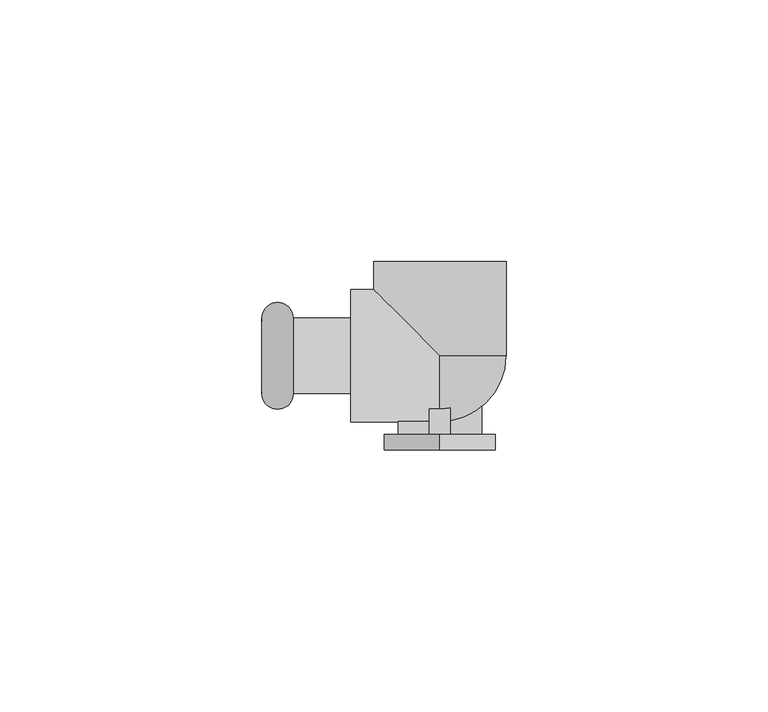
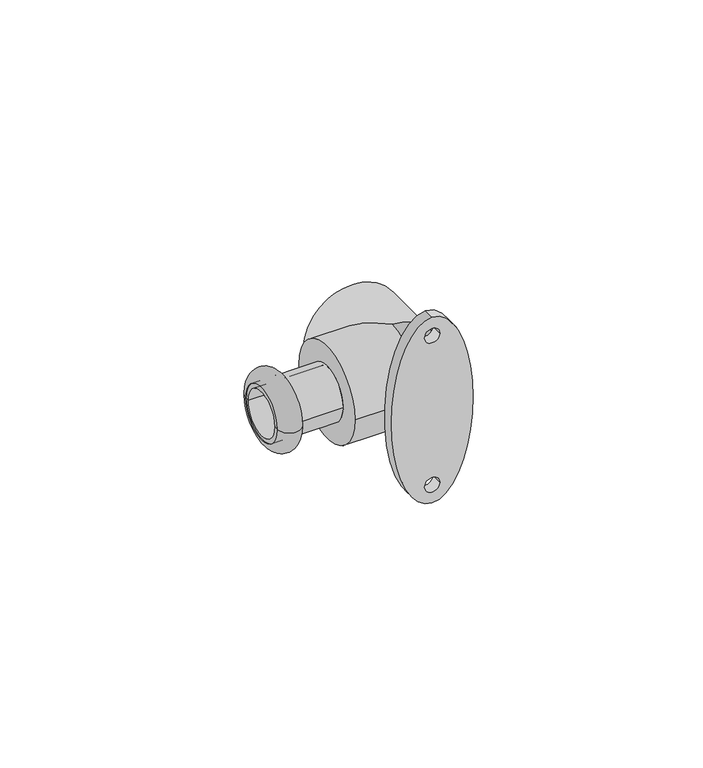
"""IFC4 building model written with IfcOpenShell, lengths in millimetres: pipe fitting geometry."""

import ifcopenshell
import ifcopenshell.guid

model = None  # the IFC model being written
_history = None  # IfcOwnerHistory: only IFC2X3 demands one
_inside = {}  # id of a spatial element -> (the spatial element, [elements in it])
_under = {}  # id of a project, library or spatial element -> (it, [spatial elements below it])
_declared = {}  # id of a project -> (the project, [libraries it declares])
_typed = {}  # id of a type object -> (the type object, [elements of that type])
_made_of = {}  # id of a material, layer set ... -> (it, [elements and type objects made of it])


def new_model(schema):
    """Start an empty IFC model of exactly this schema.

    Asked for "IFC4X3", IfcOpenShell would pick the latest addendum, in which some entities
    have other attributes; the version numbers below select the first issue.
    IFC2X3 requires an IfcOwnerHistory on every rooted entity: one is made here for all.
    """
    global model, _history
    if schema == "IFC4X3":
        model = ifcopenshell.file(schema_version=(4, 3, 0, 0))
    else:
        model = ifcopenshell.file(schema=schema)
    _inside.clear()
    _under.clear()
    _declared.clear()
    _typed.clear()
    _made_of.clear()
    _history = None
    if model.schema == "IFC2X3":
        org = make("IfcOrganization", Name="unknown")
        user = make(
            "IfcPersonAndOrganization",
            ThePerson=make("IfcPerson", FamilyName="unknown"),
            TheOrganization=org,
        )
        app = make(
            "IfcApplication",
            ApplicationDeveloper=org,
            Version="unknown",
            ApplicationFullName="unknown",
            ApplicationIdentifier="unknown",
        )
        _history = make(
            "IfcOwnerHistory",
            OwningUser=user,
            OwningApplication=app,
            ChangeAction="ADDED",
            CreationDate=0,
        )
    return model


def make(cls, **values):
    """One entity of the class cls with the attributes given. An attribute that is None is left unset."""
    return model.create_entity(
        cls, **{name: value for name, value in values.items() if value is not None}
    )


def rooted(cls, **values):
    """An entity with a GlobalId (a new one), such as an element, a storey or a relation."""
    return make(cls, GlobalId=ifcopenshell.guid.new(), OwnerHistory=_history, **values)


def si_unit(unit_type, name, prefix=None):
    """IfcSIUnit, for example si_unit("LENGTHUNIT", "METRE", prefix="MILLI")."""
    return make("IfcSIUnit", UnitType=unit_type, Prefix=prefix, Name=name)


def assignment(units):
    """IfcUnitAssignment: the units of a project."""
    return None if units is None else make("IfcUnitAssignment", Units=units)


def point(xyz):
    """IfcCartesianPoint."""
    return None if xyz is None else make("IfcCartesianPoint", Coordinates=xyz)


def direction(xyz):
    """IfcDirection."""
    return None if xyz is None else make("IfcDirection", DirectionRatios=xyz)


def frame(location, z_axis=None, x_axis=None):
    """IfcAxis2Placement3D, a coordinate frame: its origin and axes. An axis left out is left unset."""
    return make(
        "IfcAxis2Placement3D",
        Location=point(location),
        Axis=direction(z_axis),
        RefDirection=direction(x_axis),
    )


def origin():
    """The frame at (0, 0, 0) with its axes left unset."""
    return frame((0.0, 0.0, 0.0))


def place(relative_to, where):
    """IfcLocalPlacement: puts the frame where relative to a parent placement (None: the world)."""
    return make(
        "IfcLocalPlacement", PlacementRelTo=relative_to, RelativePlacement=where
    )


def context(
    kind, dimensions, precision=None, world=None, true_north=None, identifier=None
):
    """IfcGeometricRepresentationContext, for example the 3D "Model" context."""
    return make(
        "IfcGeometricRepresentationContext",
        ContextIdentifier=identifier,
        ContextType=kind,
        CoordinateSpaceDimension=dimensions,
        Precision=precision,
        WorldCoordinateSystem=world,
        TrueNorth=true_north,
    )


def project(units=None, contexts=None):
    """IfcProject with its units and contexts."""
    return rooted(
        "IfcProject",
        Name="project",
        RepresentationContexts=contexts,
        UnitsInContext=assignment(units),
    )


def spatial(cls, under=None, at=None, **own):
    """A site, building, storey or space (cls), placed at a placement, below another one or the project."""
    s = rooted(cls, ObjectPlacement=at, **own)
    if under is not None:
        _under.setdefault(under.id(), (under, []))[1].append(s)
    return s


def polyline(points):
    """IfcPolyline through the points."""
    return make("IfcPolyline", Points=[point(p) for p in points])


def circle_curve(where, radius):
    """IfcCircle in the frame where."""
    return make("IfcCircle", Position=where, Radius=radius)


def ellipse_curve(where, semi_axis1, semi_axis2):
    """IfcEllipse in the frame where."""
    return make(
        "IfcEllipse", Position=where, SemiAxis1=semi_axis1, SemiAxis2=semi_axis2
    )


def trimmed(basis, trim1, trim2, sense, master):
    """IfcTrimmedCurve: the piece of a basis curve between two trims."""
    return make(
        "IfcTrimmedCurve",
        BasisCurve=basis,
        Trim1=trim1,
        Trim2=trim2,
        SenseAgreement=sense,
        MasterRepresentation=master,
    )


def outline(outer, holes=None, kind="AREA"):
    """IfcArbitraryClosedProfileDef: a profile drawn as a closed curve; with holes, ...WithVoids."""
    if holes is None:
        return make("IfcArbitraryClosedProfileDef", ProfileType=kind, OuterCurve=outer)
    return make(
        "IfcArbitraryProfileDefWithVoids",
        ProfileType=kind,
        OuterCurve=outer,
        InnerCurves=holes,
    )


def extrude(swept, where, along, depth):
    """IfcExtrudedAreaSolid: the profile swept, set in the frame where, extruded along a direction by depth."""
    return make(
        "IfcExtrudedAreaSolid",
        SweptArea=swept,
        Position=where,
        ExtrudedDirection=direction(along),
        Depth=depth,
    )


def shape(context_of_items, identifier, shape_type, items):
    """IfcShapeRepresentation: the items that make up one representation, for example the "Body"."""
    return make(
        "IfcShapeRepresentation",
        ContextOfItems=context_of_items,
        RepresentationIdentifier=identifier,
        RepresentationType=shape_type,
        Items=items,
    )


def source(mapping_origin, context_of_items, identifier, shape_type, items):
    """IfcRepresentationMap: a shape defined once, which mapped items show again and again."""
    return make(
        "IfcRepresentationMap",
        MappingOrigin=mapping_origin,
        MappedRepresentation=shape(context_of_items, identifier, shape_type, items),
    )


def transform(
    local_origin,
    x_axis=None,
    y_axis=None,
    z_axis=None,
    scale=None,
    scale2=None,
    scale3=None,
    uniform=True,
):
    """IfcCartesianTransformationOperator3D, or its non-uniform kind. x_axis, y_axis, z_axis: its Axis1, 2, 3."""
    if uniform:
        return make(
            "IfcCartesianTransformationOperator3D",
            Axis1=direction(x_axis),
            Axis2=direction(y_axis),
            LocalOrigin=point(local_origin),
            Scale=scale,
            Axis3=direction(z_axis),
        )
    return make(
        "IfcCartesianTransformationOperator3DnonUniform",
        Axis1=direction(x_axis),
        Axis2=direction(y_axis),
        LocalOrigin=point(local_origin),
        Scale=scale,
        Axis3=direction(z_axis),
        Scale2=scale2,
        Scale3=scale3,
    )


def mapped(mapping_source, mapping_target):
    """IfcMappedItem: shows the shape of a source again, moved by a transform."""
    return make(
        "IfcMappedItem", MappingSource=mapping_source, MappingTarget=mapping_target
    )


def made_of(thing, what):
    """Note that an element or type object is made of a material, layer set ...; save() writes the relation."""
    if what is not None:
        _made_of.setdefault(what.id(), (what, []))[1].append(thing)
    return thing


def element(
    cls,
    number,
    at=None,
    inside=None,
    cuts=None,
    type_object=None,
    material=None,
    context=None,
    identifier="Body",
    shape_type=None,
    held_by="IfcProductDefinitionShape",
    body=None,
    shapes=None,
    **own,
):
    """One element of the class cls, such as IfcWall. Its Tag is "e" and its number.

    at: its placement. inside: the storey or other place that contains it. cuts: it is an
    opening in that element (IfcRelVoidsElement). A single representation is given by context,
    identifier, shape_type and body (its items); several are given by shapes. held_by: the class
    of the entity that holds the representations. save() writes the other relations.
    """
    e = rooted(cls, Tag="e%d" % number, ObjectPlacement=at, **own)
    if body is not None:
        shapes = [shape(context, identifier, shape_type, body)]
    if shapes is not None:
        e.Representation = make(held_by, Representations=shapes)
    if inside is not None:
        _inside.setdefault(inside.id(), (inside, []))[1].append(e)
    if cuts is not None:
        rooted(
            "IfcRelVoidsElement", RelatingBuildingElement=cuts, RelatedOpeningElement=e
        )
    if type_object is not None:
        _typed.setdefault(type_object.id(), (type_object, []))[1].append(e)
    return made_of(e, material)


def aggregate(whole, parts):
    """IfcRelAggregates: a whole, such as a stair, and the parts it consists of."""
    return rooted("IfcRelAggregates", RelatingObject=whole, RelatedObjects=parts)


def save(model, path):
    """Write the relations noted so far, then the file.

    IfcRelAggregates (storeys below a building ...), IfcRelContainedInSpatialStructure (elements
    in a storey), IfcRelDefinesByType, IfcRelAssociatesMaterial and IfcRelDeclares: one each for
    every whole, place, type object, material and project.
    """
    for whole, parts in _under.values():
        aggregate(whole, parts)
    for where, things in _inside.values():
        rooted(
            "IfcRelContainedInSpatialStructure",
            RelatedElements=things,
            RelatingStructure=where,
        )
    for kind, things in _typed.values():
        rooted("IfcRelDefinesByType", RelatedObjects=things, RelatingType=kind)
    for what, things in _made_of.values():
        rooted("IfcRelAssociatesMaterial", RelatedObjects=things, RelatingMaterial=what)
    for by, libraries in _declared.values():
        rooted("IfcRelDeclares", RelatingContext=by, RelatedDefinitions=libraries)
    model.write(path)


def plane_surface(at):
    """IfcPlane: the flat surface through the origin of the frame at, square to its z axis."""
    return make("IfcPlane", Position=at)


def cylinder_surface(at, radius):
    """IfcCylindricalSurface: all points at the distance radius from the z axis of the frame at."""
    return make("IfcCylindricalSurface", Position=at, Radius=radius)


def revolved_surface(curve, axis_point, axis_direction):
    """IfcSurfaceOfRevolution: the curve turned about the line through axis_point along axis_direction."""
    return make(
        "IfcSurfaceOfRevolution",
        SweptCurve=make("IfcArbitraryOpenProfileDef", ProfileType="CURVE", Curve=curve),
        AxisPosition=make("IfcAxis1Placement", Location=point(axis_point), Axis=direction(axis_direction)),
    )


def extruded_surface(curve, direction_of_extrusion, depth):
    """IfcSurfaceOfLinearExtrusion: the curve pushed along a direction by depth."""
    return make(
        "IfcSurfaceOfLinearExtrusion",
        SweptCurve=make("IfcArbitraryOpenProfileDef", ProfileType="CURVE", Curve=curve),
        ExtrudedDirection=direction(direction_of_extrusion),
        Depth=depth,
    )


def advanced_brep(points, edges, surfaces, faces):
    """IfcAdvancedBrep: a solid bounded by faces that lie on surfaces and meet in shared edges.

    An edge is (start, end): straight between two places in points (the first is 0);
    or (start, end, curve); or (start, end, curve, False) where it runs against its curve.
    A face is (place in surfaces, loops), or (place, loops, False) where it looks against
    its surface's normal. A loop lists edges by number (the first is 1), with a minus sign
    where the edge is run from its end to its start. The first loop is the outer one.
    """
    corners = [point(p) for p in points]
    vertices = [make("IfcVertexPoint", VertexGeometry=c) for c in corners]
    made = []
    for start, end, *more in edges:
        made.append(
            make(
                "IfcEdgeCurve",
                EdgeStart=vertices[start],
                EdgeEnd=vertices[end],
                EdgeGeometry=more[0] if more else make("IfcPolyline", Points=[corners[start], corners[end]]),
                SameSense=more[1] if len(more) > 1 else True,
            )
        )
    hull = []
    for where, loops, *sense in faces:
        bounds = []
        for j, loop in enumerate(loops):
            ring = [make("IfcOrientedEdge", EdgeElement=made[abs(k) - 1], Orientation=k > 0) for k in loop]
            bounds.append(
                make(
                    "IfcFaceOuterBound" if j == 0 else "IfcFaceBound",
                    Bound=make("IfcEdgeLoop", EdgeList=ring),
                    Orientation=True,
                )
            )
        hull.append(make("IfcAdvancedFace", Bounds=bounds, FaceSurface=surfaces[where], SameSense=sense[0] if sense else True))
    return make("IfcAdvancedBrep", Outer=make("IfcClosedShell", CfsFaces=hull))


def pipe_fitting_cbf9872b(model_context):
    return source(origin(), model_context, "Body", "SolidModel", [
        advanced_brep(
        [(-34.0, 7.2, 0.0), (-34.0, -7.2, 0.0), (-27.9987073, -7.2, 0.0), (-27.9987073, 7.2, 0.0)],
        [
            (0, 1, circle_curve(frame((-34.0, 0.0, 0.0), z_axis=(-1.0, 0.0, 0.0), x_axis=(0.0, -1.0000000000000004, 0.0)), 7.2)),
            (1, 2),
            (2, 3, circle_curve(frame((-27.9987073, 0.0, 0.0), z_axis=(1.0, 0.0, 0.0), x_axis=(0.0, -1.0000000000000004, 0.0)), 7.2)),
            (3, 0),
            (1, 0, circle_curve(frame((-34.0, 0.0, 0.0), z_axis=(-1.0, 0.0, 0.0), x_axis=(0.0, -1.0000000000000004, 0.0)), 7.2)),
            (3, 2, circle_curve(frame((-27.9987073, 0.0, 0.0), z_axis=(1.0, 0.0, 0.0), x_axis=(0.0, -1.0000000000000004, 0.0)), 7.2)),
            (2, 1, circle_curve(frame((-30.9993536, -7.2, 0.0), z_axis=(0.0, 0.0, -1.0000000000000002), x_axis=(-1.0000000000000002, 0.0, 0.0)), 3.0006464)),
            (0, 3, circle_curve(frame((-30.9993536, 7.2, 0.0), z_axis=(0.0, 0.0, -1.0000000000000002), x_axis=(-1.0000000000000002, 0.0, 0.0)), 3.0006464)),
        ],
        [
            revolved_surface(polyline([(-27.998707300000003, -7.200000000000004, 0.0), (-34.00000000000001, -7.200000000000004, 0.0)]), (-17.0, 0.0, 0.0), (1.0000000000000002, 0.0, 0.0)),
            revolved_surface(trimmed(ellipse_curve(frame((-30.9993536, -7.2, 0.0), z_axis=(0.0, 0.0, 1.0000000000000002), x_axis=(-1.0000000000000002, 0.0, 0.0)), 3.0006464, 3.0006464), [point((-34.0, -7.2, 0.0))], [point((-27.9987073, -7.2, 0.0))], True, "CARTESIAN"), (-17.0, 0.0, 0.0), (1.0000000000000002, 0.0, 0.0)),
        ],
        [
            (0, [[1, 2, 3, 4]]),
            (0, [[5, -4, 6, -2]]),
            (1, [[-3, 7, -1, 8]]),
            (1, [[-6, -8, -5, -7]]),
        ],
    ),
        advanced_brep(
        [(-34.0, 6.0, 0.0), (-34.0, -6.0, 0.0), (-16.0, -6.0, 0.0), (-16.0, 6.0, 0.0), (-34.0, 7.2, 0.0), (-34.0, -7.2, 0.0), (-17.0, 7.2, 0.0), (-17.0, -7.2, 0.0)],
        [
            (0, 1, circle_curve(frame((-34.0, 0.0, 0.0), z_axis=(-1.0, 0.0, 0.0), x_axis=(0.0, -1.0000000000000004, 0.0)), 6.0)),
            (1, 2),
            (2, 3, circle_curve(frame((-16.0, 0.0, 0.0), z_axis=(1.0, 0.0, 0.0), x_axis=(0.0, -1.0000000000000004, 0.0)), 6.0)),
            (3, 0),
            (1, 0, circle_curve(frame((-34.0, 0.0, 0.0), z_axis=(-1.0, 0.0, 0.0), x_axis=(0.0, -1.0000000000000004, 0.0)), 6.0)),
            (3, 2, circle_curve(frame((-16.0, 0.0, 0.0), z_axis=(1.0, 0.0, 0.0), x_axis=(0.0, -1.0000000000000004, 0.0)), 6.0)),
            (4, 5, circle_curve(frame((-34.0, 0.0, 0.0), z_axis=(-1.0, 0.0, 0.0), x_axis=(0.0, -1.0000000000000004, 0.0)), 7.2)),
            (5, 1),
            (0, 4),
            (5, 4, circle_curve(frame((-34.0, 0.0, 0.0), z_axis=(-1.0, 0.0, 0.0), x_axis=(0.0, -1.0000000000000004, 0.0)), 7.2)),
            (6, 7, circle_curve(frame((-17.0, 0.0, 0.0), z_axis=(-1.0, 0.0, 0.0), x_axis=(0.0, -1.0000000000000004, 0.0)), 7.2)),
            (7, 5),
            (4, 6),
            (7, 6, circle_curve(frame((-17.0, 0.0, 0.0), z_axis=(-1.0, 0.0, 0.0), x_axis=(0.0, -1.0000000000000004, 0.0)), 7.2)),
            (2, 7),
            (6, 3),
        ],
        [
            revolved_surface(polyline([(-16.0, -6.000000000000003, 0.0), (-34.00000000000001, -6.000000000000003, 0.0)]), (-17.0, 0.0, 0.0), (1.0000000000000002, 0.0, 0.0)),
            plane_surface(frame((-34.0, 0.0, 0.0), z_axis=(-1.0, 0.0, 0.0), x_axis=(0.0, -1.0, 0.0))),
            cylinder_surface(frame((-17.0, 0.0, 0.0), z_axis=(1.0000000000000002, 0.0, 0.0), x_axis=(0.0, -1.0000000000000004, 0.0)), 7.2),
            revolved_surface(polyline([(-17.0, -7.2, 0.0), (-16.0, -6.0, 0.0)]), (-17.0, 0.0, 0.0), (1.0000000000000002, 0.0, 0.0)),
        ],
        [
            (0, [[1, 2, 3, 4]]),
            (0, [[5, -4, 6, -2]]),
            (1, [[7, 8, -1, 9]]),
            (1, [[10, -9, -5, -8]]),
            (2, [[11, 12, -7, 13]]),
            (2, [[14, -13, -10, -12]]),
            (3, [[-3, 15, -11, 16]]),
            (3, [[-6, -16, -14, -15]]),
        ],
    ),
        advanced_brep(
        [(0.0, 0.0, 12.65), (0.0, -12.65, 0.0), (0.0, 0.0, -12.65), (12.65, 0.0, 0.0), (-17.0, 12.65, 0.0), (-17.0, -12.65, 0.0), (-12.65, 12.65, 0.0), (12.65, 18.0, 0.0), (-12.65, 18.0, 0.0), (-8.65, 18.0, 0.0), (8.65, 18.0, 0.0), (8.65, 3.35, 0.0), (-8.65, 3.35, 0.0)],
        [
            (0, 1, circle_curve(frame((0.0, 0.0, 0.0), z_axis=(1.0, 0.0, 0.0), x_axis=(0.0, 1.0, 0.0)), 12.65)),
            (1, 2, circle_curve(frame((0.0, 0.0, 0.0), z_axis=(1.0, 0.0, 0.0), x_axis=(0.0, 1.0, 0.0)), 12.65)),
            (2, 3, circle_curve(frame((0.0, 0.0, 0.0), z_axis=(0.0, -1.0, 0.0), x_axis=(0.0, 0.0, 1.0)), 12.65)),
            (3, 0, circle_curve(frame((0.0, 0.0, 0.0), z_axis=(0.0, -1.0, 0.0), x_axis=(0.0, 0.0, 1.0)), 12.65)),
            (4, 5, circle_curve(frame((-17.0, 0.0, 0.0), z_axis=(-1.0, 0.0, 0.0), x_axis=(0.0, -1.0, 0.0)), 12.65)),
            (5, 4, circle_curve(frame((-17.0, 0.0, 0.0), z_axis=(-1.0, 0.0, 0.0), x_axis=(0.0, -1.0, 0.0)), 12.65)),
            (5, 1),
            (0, 6, ellipse_curve(frame((0.0, 0.0, 0.0), z_axis=(-0.7071067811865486, -0.7071067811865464, 0.0), x_axis=(0.7071067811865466, -0.7071067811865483, 0.0)), 17.8898016, 12.65)),
            (6, 4),
            (6, 2, ellipse_curve(frame((0.0, 0.0, 0.0), z_axis=(-0.7071067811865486, -0.7071067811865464, 0.0), x_axis=(0.7071067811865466, -0.7071067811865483, 0.0)), 17.8898016, 12.65)),
            (7, 8, circle_curve(frame((0.0, 18.0, 0.0), z_axis=(0.0, 1.0, 0.0), x_axis=(-1.0, 0.0, 0.0)), 12.65)),
            (8, 7, circle_curve(frame((0.0, 18.0, 0.0), z_axis=(0.0, 1.0, 0.0), x_axis=(-1.0, 0.0, 0.0)), 12.65)),
            (9, 10, circle_curve(frame((0.0, 18.0, 0.0), z_axis=(0.0, -1.0, 0.0), x_axis=(-1.0, 0.0, 0.0)), 8.65)),
            (10, 9, circle_curve(frame((0.0, 18.0, 0.0), z_axis=(0.0, -1.0, 0.0), x_axis=(-1.0, 0.0, 0.0)), 8.65)),
            (8, 6),
            (3, 7),
            (11, 12, circle_curve(frame((0.0, 3.35, 0.0), z_axis=(0.0, 1.0, 0.0), x_axis=(-1.0, 0.0, 0.0)), 8.65)),
            (12, 11, circle_curve(frame((0.0, 3.35, 0.0), z_axis=(0.0, 1.0, 0.0), x_axis=(-1.0, 0.0, 0.0)), 8.65)),
            (11, 10),
            (9, 12),
        ],
        [
            revolved_surface(trimmed(ellipse_curve(frame((0.0, 0.0, 0.0), z_axis=(1.0, 0.0, 0.0), x_axis=(0.0, 1.0, 0.0)), 12.65, 12.65), [point((0.0, 0.0, 12.65))], [point((0.0, -12.65, 0.0))], True, "CARTESIAN"), (0.0, 0.0, 0.0), (0.0, -1.0, 0.0)),
            plane_surface(frame((-17.0, 0.0, 0.0), z_axis=(-1.0, 0.0, 0.0), x_axis=(0.0, 0.0, 1.0))),
            cylinder_surface(frame((0.0, 0.0, 0.0), z_axis=(1.0, 0.0, 0.0), x_axis=(0.0, -1.0, 0.0)), 12.65),
            plane_surface(frame((0.0, 18.0, 0.0), z_axis=(0.0, 1.0, 0.0), x_axis=(0.0, 0.0, 1.0))),
            cylinder_surface(frame((0.0, 0.0, 0.0), z_axis=(0.0, -1.0, 0.0), x_axis=(-1.0, 0.0, 0.0)), 12.65),
            plane_surface(frame((-8.65, 3.35, 0.0), z_axis=(0.0, 1.0, 0.0), x_axis=(0.0, 0.0, -1.0))),
            revolved_surface(polyline([(-8.65, 18.0, 0.0), (-8.65, 3.35, 0.0)]), (0.0, 3.35, 0.0), (0.0, 1.0, 0.0)),
        ],
        [
            (0, [[1, 2, 3, 4]]),
            (1, [[5, 6]]),
            (2, [[-6, 7, -1, 8, 9]]),
            (2, [[-5, -9, 10, -2, -7]]),
            (3, [[11, 12], [13, 14]]),
            (4, [[-12, 15, -8, -4, 16]]),
            (4, [[-11, -16, -3, -10, -15]]),
            (5, [[17, 18]]),
            (6, [[-17, 19, -13, 20]]),
            (6, [[-18, -20, -14, -19]]),
        ],
    ),
        extrude(outline(polyline([(8.0, 2.0), (8.0, -2.0), (2.0, -2.0), (2.0, -8.0), (-2.0, -8.0), (-2.0, -2.0), (-8.0, -2.0), (-8.0, 2.0), (-2.0, 2.0), (-2.0, 8.0), (2.0, 8.0), (2.0, 2.0), (8.0, 2.0)])), frame((0.0, -15.0, 0.0), z_axis=(0.0, 1.0, 0.0), x_axis=(0.0, 0.0, 1.0)), (0.0, 0.0, 1.0), 15.0),
        advanced_brep(
        [(0.0, -15.0, 25.5), (0.0, -15.0, -25.5), (1.975342, -15.0, 20.5), (-1.975342, -15.0, 20.5), (1.975342, -15.0, -20.5), (-1.975342, -15.0, -20.5), (0.0, -18.0, 25.5), (0.0, -18.0, -25.5), (1.975342, -18.0, 20.5), (-1.975342, -18.0, 20.5), (1.975342, -18.0, -20.5), (-1.975342, -18.0, -20.5)],
        [
            (0, 1, ellipse_curve(frame((0.0, -15.0, 0.0), z_axis=(0.0, 1.0, 0.0), x_axis=(0.0, 0.0, -1.0)), 25.5, 10.65)),
            (1, 0, ellipse_curve(frame((0.0, -15.0, 0.0), z_axis=(0.0, 1.0, 0.0), x_axis=(0.0, 0.0, -1.0)), 25.5, 10.65)),
            (2, 3, circle_curve(frame((0.0, -15.0, 20.5), z_axis=(0.0, -1.0, 0.0), x_axis=(-1.0, 0.0, 0.0)), 1.975342)),
            (3, 2, circle_curve(frame((0.0, -15.0, 20.5), z_axis=(0.0, -1.0, 0.0), x_axis=(-1.0, 0.0, 0.0)), 1.975342)),
            (4, 5, circle_curve(frame((0.0, -15.0, -20.5), z_axis=(0.0, -1.0, 0.0), x_axis=(-1.0, 0.0, 0.0)), 1.975342)),
            (5, 4, circle_curve(frame((0.0, -15.0, -20.5), z_axis=(0.0, -1.0, 0.0), x_axis=(-1.0, 0.0, 0.0)), 1.975342)),
            (6, 7, ellipse_curve(frame((0.0, -18.0, 0.0), z_axis=(0.0, -1.0, 0.0), x_axis=(0.0, 0.0, -1.0)), 25.5, 10.65)),
            (7, 6, ellipse_curve(frame((0.0, -18.0, 0.0), z_axis=(0.0, -1.0, 0.0), x_axis=(0.0, 0.0, -1.0)), 25.5, 10.65)),
            (8, 9, circle_curve(frame((0.0, -18.0, 20.5), z_axis=(0.0, 1.0, 0.0), x_axis=(-1.0, 0.0, 0.0)), 1.975342)),
            (9, 8, circle_curve(frame((0.0, -18.0, 20.5), z_axis=(0.0, 1.0, 0.0), x_axis=(-1.0, 0.0, 0.0)), 1.975342)),
            (10, 11, circle_curve(frame((0.0, -18.0, -20.5), z_axis=(0.0, 1.0, 0.0), x_axis=(-1.0, 0.0, 0.0)), 1.975342)),
            (11, 10, circle_curve(frame((0.0, -18.0, -20.5), z_axis=(0.0, 1.0, 0.0), x_axis=(-1.0, 0.0, 0.0)), 1.975342)),
            (2, 8),
            (9, 3),
            (4, 10),
            (11, 5),
            (0, 6),
            (7, 1),
        ],
        [
            plane_surface(frame((-1.975342, -15.0, 20.5), z_axis=(0.0, 1.0, 0.0), x_axis=(0.0, 0.0, -1.0))),
            plane_surface(frame((-1.975342, -18.0, 20.5), z_axis=(0.0, -1.0, 0.0), x_axis=(0.0, 0.0, 1.0))),
            revolved_surface(polyline([(-1.975342, -18.0, 20.5), (-1.975342, -15.0, 20.5)]), (0.0, -18.0, 20.5), (0.0, -1.0, 0.0)),
            revolved_surface(polyline([(-1.975342, -18.0, -20.5), (-1.975342, -15.0, -20.5)]), (0.0, -18.0, -20.5), (0.0, -1.0, 0.0)),
            extruded_surface(trimmed(ellipse_curve(frame((0.0, -21.0, 0.0), z_axis=(0.0, 1.0, 0.0), x_axis=(0.0, 0.0, -1.0)), 25.5, 10.65), [point((0.0, -21.0, 25.5))], [point((0.0, -21.0, -25.5))], True, "CARTESIAN"), (0.0, 3.0, 0.0), 3.0),
            extruded_surface(trimmed(ellipse_curve(frame((0.0, -21.0, 0.0), z_axis=(0.0, 1.0, 0.0), x_axis=(0.0, 0.0, -1.0)), 25.5, 10.65), [point((0.0, -21.0, -25.5))], [point((0.0, -21.0, 25.5))], True, "CARTESIAN"), (0.0, 3.0, 0.0), 3.0),
        ],
        [
            (0, [[1, 2], [3, 4], [5, 6]]),
            (1, [[7, 8], [9, 10], [11, 12]]),
            (2, [[-3, 13, -10, 14]]),
            (2, [[-4, -14, -9, -13]]),
            (3, [[-5, 15, -12, 16]]),
            (3, [[-6, -16, -11, -15]]),
            (4, [[-1, 17, -8, 18]]),
            (5, [[-2, -18, -7, -17]]),
        ],
    ),
    ])


if __name__ == "__main__":
    model = new_model("IFC4")
    model_context = context("Model", 3, world=origin())
    ifc_project = project(units=[si_unit("LENGTHUNIT", "METRE", prefix="MILLI")], contexts=[model_context])
    site = spatial("IfcSite", under=ifc_project)
    building = spatial("IfcBuilding", under=site)
    placement = place(None, origin())
    pipe_fitting_shape = pipe_fitting_cbf9872b(model_context)
    element("IfcPipeFitting", 1, ObjectType="NLRS_50_PIF_UN_Mapress koper muurplaat 90°_geb : DN10-15-Rp1/2\" / d12-18-Rp1/2\" (L1=36 mm)", at=placement, inside=building, context=model_context, shape_type="MappedRepresentation", body=[
        mapped(pipe_fitting_shape, transform((0.0, 0.0, 0.0), x_axis=(1.0, 0.0, 0.0), y_axis=(0.0, 1.0, 0.0), z_axis=(0.0, 0.0, 1.0))),
    ])
    save(model, "model.ifc")
